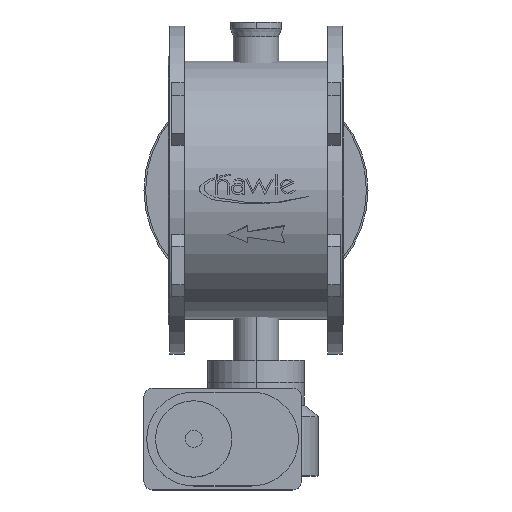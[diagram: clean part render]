
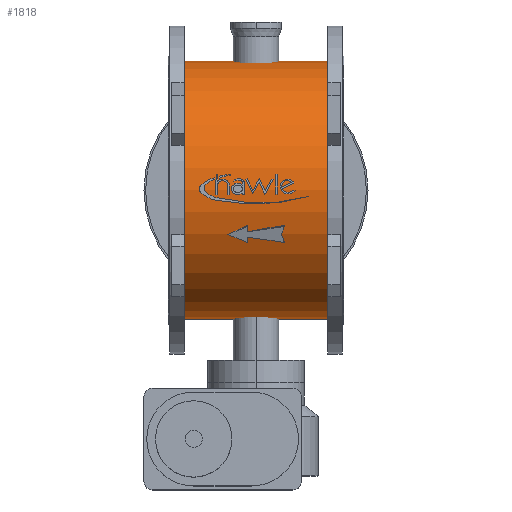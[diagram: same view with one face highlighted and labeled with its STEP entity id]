
A CAD part, top view. The second image highlights one B-rep face of the part: STEP entity #1818.
In plain terms, the highlighted cylindrical face has radius 228 mm (diameter 456 mm), a partial arc.
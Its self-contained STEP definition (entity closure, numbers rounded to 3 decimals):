
#1818=ADVANCED_FACE('',(#3406),#3407,.T.);
#3406=FACE_OUTER_BOUND('',#5071,.T.);
#3407=CYLINDRICAL_SURFACE('',#5072,228.0);
#5071=EDGE_LOOP('',(#8497,#8498,#8499,#8500));
#5072=AXIS2_PLACEMENT_3D('',#8501,#8502,#8503);
#8497=ORIENTED_EDGE('',*,*,#9815,.T.);
#8498=ORIENTED_EDGE('',*,*,#9545,.T.);
#8499=ORIENTED_EDGE('',*,*,#9817,.T.);
#8500=ORIENTED_EDGE('',*,*,#9895,.T.);
#8501=CARTESIAN_POINT('',(-282.0,0.,0.0));
#8502=DIRECTION('',(1.0,0.,0.0));
#8503=DIRECTION('',(0.,-1.0,0.0));
#9545=EDGE_CURVE('',#11440,#11441,#11442,.T.);
#9815=EDGE_CURVE('',#11797,#11440,#11798,.T.);
#9817=EDGE_CURVE('',#11441,#11799,#11801,.T.);
#9895=EDGE_CURVE('',#11799,#11797,#11899,.T.);
#11440=VERTEX_POINT('',#13793);
#11441=VERTEX_POINT('',#13794);
#11442=CIRCLE('',#13795,228.0);
#11797=VERTEX_POINT('',#14239);
#11798=LINE('',#14240,#14241);
#11799=VERTEX_POINT('',#14242);
#11801=LINE('',#14244,#14245);
#11899=CIRCLE('',#14372,228.0);
#13793=CARTESIAN_POINT('',(-28.0,-228.0,0.0));
#13794=CARTESIAN_POINT('',(-28.0,228.0,0.));
#13795=AXIS2_PLACEMENT_3D('',#15889,#15890,#15891);
#14239=CARTESIAN_POINT('',(-282.0,-228.0,0.0));
#14240=CARTESIAN_POINT('',(-282.0,-228.0,0.));
#14241=VECTOR('',#16251,1.0);
#14242=CARTESIAN_POINT('',(-282.0,228.0,0.));
#14244=CARTESIAN_POINT('',(-282.0,228.0,0.));
#14245=VECTOR('',#16255,1.0);
#14372=AXIS2_PLACEMENT_3D('',#16330,#16331,#16332);
#15889=CARTESIAN_POINT('',(-28.0,0.,0.0));
#15890=DIRECTION('',(-1.0,0.,0.0));
#15891=DIRECTION('',(0.,-1.0,0.0));
#16251=DIRECTION('',(1.0,0.,0.0));
#16255=DIRECTION('',(-1.0,0.,-0.0));
#16330=CARTESIAN_POINT('',(-282.0,0.,0.0));
#16331=DIRECTION('',(1.0,0.,0.0));
#16332=DIRECTION('',(0.,-1.0,0.0));
